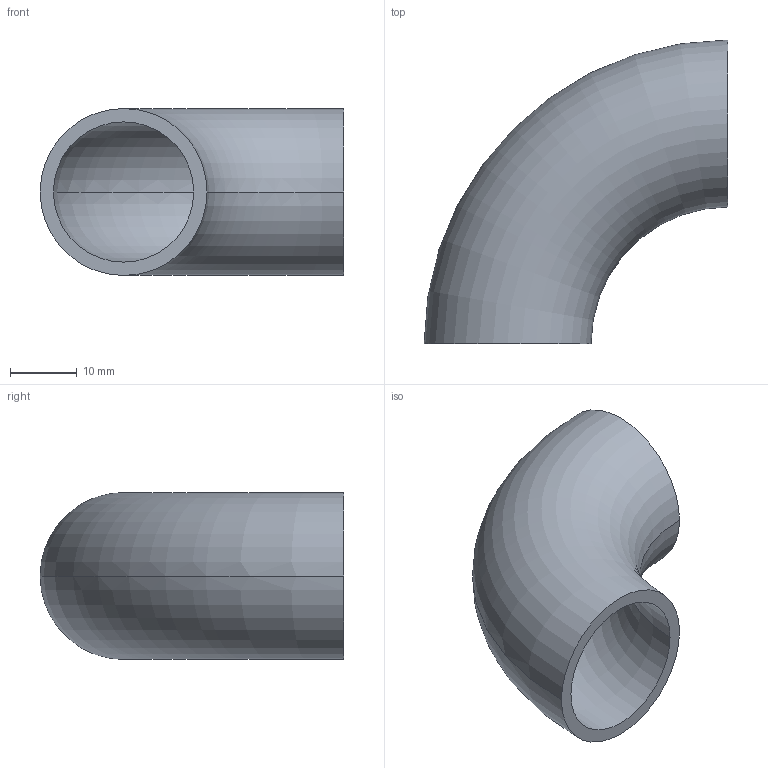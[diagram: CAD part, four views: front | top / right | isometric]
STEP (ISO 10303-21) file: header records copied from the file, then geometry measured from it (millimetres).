
FILE_DESCRIPTION (( 'STEP AP203' ), '1' );
FILE_NAME ('OT212-20-25x2_OSTP.step', '2020-12-16T01:58:48', ( '' ), ( '' ), 'SwSTEP 2.0', 'SolidWorks 2014', '' );
FILE_SCHEMA (( 'CONFIG_CONTROL_DESIGN' ));
Length unit declared in the file: millimetre
Products named in the file (1): OT212-20-25x2_OSTP
Bounding box: 45.5 x 45.5 x 25 mm (x, y, z)
Volume: 7491 mm3; surface area: 7780.1 mm2
Topology: 1 solids, 1 shells, 6 faces, 12 edges, 8 vertices
Faces by surface type: torus 4, plane 2
Entity records: 249 total; most frequent: DIRECTION 38, CARTESIAN_POINT 27, ORIENTED_EDGE 24, AXIS2_PLACEMENT_3D 19, CIRCLE 12, EDGE_CURVE 12, PERSON_AND_ORGANIZATION 8, VERTEX_POINT 8
